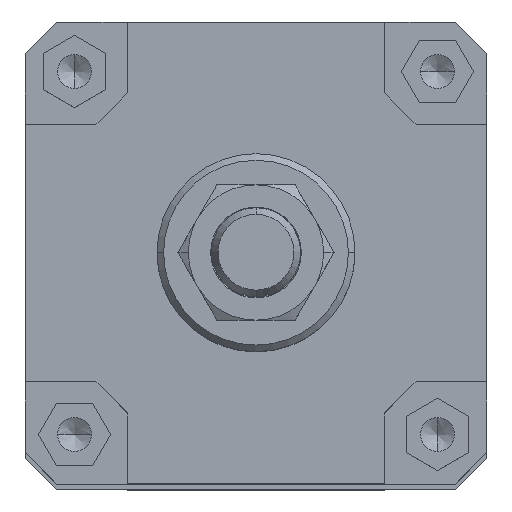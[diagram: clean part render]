
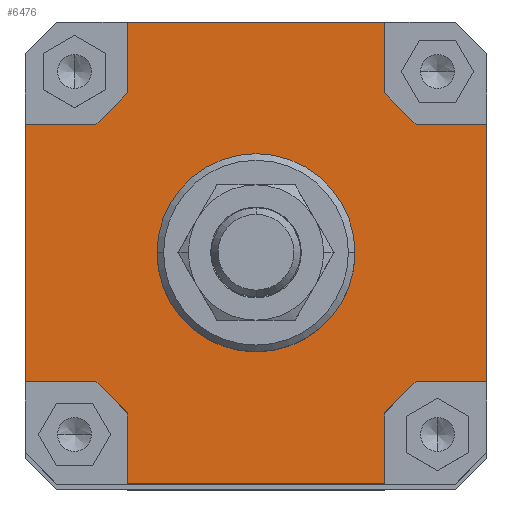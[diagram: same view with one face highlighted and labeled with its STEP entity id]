
A CAD part, top view. The second image highlights one B-rep face of the part: STEP entity #6476.
In plain terms, the highlighted planar face has unit normal (0, 0, 1).
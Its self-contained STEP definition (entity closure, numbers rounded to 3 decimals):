
#2320=CARTESIAN_POINT('',(-30.0,0.,530.0));
#2321=VERTEX_POINT('',#2320);
#2330=CARTESIAN_POINT('',(30.0,0.,530.0));
#2331=VERTEX_POINT('',#2330);
#2332=CARTESIAN_POINT('',(0.0,0.0,530.0));
#2333=DIRECTION('',(0.0,0.0,-1.0));
#2334=DIRECTION('',(-1.0,0.0,0.0));
#2335=AXIS2_PLACEMENT_3D('',#2332,#2333,#2334);
#2336=CIRCLE('',#2335,30.0);
#2337=EDGE_CURVE('',#2331,#2321,#2336,.T.);
#2557=CARTESIAN_POINT('',(0.0,0.0,530.0));
#2558=DIRECTION('',(0.0,0.0,-1.0));
#2559=DIRECTION('',(-1.0,0.0,0.0));
#2560=AXIS2_PLACEMENT_3D('',#2557,#2558,#2559);
#2561=CIRCLE('',#2560,30.0);
#2562=EDGE_CURVE('',#2321,#2331,#2561,.T.);
#2641=CARTESIAN_POINT('',(-39.,70.,530.0));
#2642=VERTEX_POINT('',#2641);
#2649=CARTESIAN_POINT('',(39.,70.,530.0));
#2650=VERTEX_POINT('',#2649);
#2651=CARTESIAN_POINT('',(-39.,70.,530.0));
#2652=DIRECTION('',(1.0,0.0,0.0));
#2653=VECTOR('',#2652,78.);
#2654=LINE('',#2651,#2653);
#2655=EDGE_CURVE('',#2642,#2650,#2654,.T.);
#3100=CARTESIAN_POINT('',(70.,39.,530.0));
#3101=VERTEX_POINT('',#3100);
#3108=CARTESIAN_POINT('',(70.,-39.0,530.0));
#3109=VERTEX_POINT('',#3108);
#3110=CARTESIAN_POINT('',(70.,39.,530.0));
#3111=DIRECTION('',(0.0,-1.0,0.0));
#3112=VECTOR('',#3111,78.);
#3113=LINE('',#3110,#3112);
#3114=EDGE_CURVE('',#3101,#3109,#3113,.T.);
#3181=CARTESIAN_POINT('',(-39.,-48.5,530.0));
#3182=VERTEX_POINT('',#3181);
#3189=CARTESIAN_POINT('',(-48.5,-39.,530.0));
#3190=VERTEX_POINT('',#3189);
#3191=CARTESIAN_POINT('',(-39.,-48.5,530.0));
#3192=DIRECTION('',(-0.707,0.707,0.0));
#3193=VECTOR('',#3192,13.435);
#3194=LINE('',#3191,#3193);
#3195=EDGE_CURVE('',#3182,#3190,#3194,.T.);
#3309=CARTESIAN_POINT('',(-70.,-39.,530.0));
#3310=VERTEX_POINT('',#3309);
#3311=CARTESIAN_POINT('',(-70.,-39.,530.0));
#3312=DIRECTION('',(1.0,0.0,0.0));
#3313=VECTOR('',#3312,21.5);
#3314=LINE('',#3311,#3313);
#3315=EDGE_CURVE('',#3310,#3190,#3314,.T.);
#3342=CARTESIAN_POINT('',(48.5,-39.,530.0));
#3343=VERTEX_POINT('',#3342);
#3350=CARTESIAN_POINT('',(39.,-48.5,530.0));
#3351=VERTEX_POINT('',#3350);
#3352=CARTESIAN_POINT('',(48.5,-39.,530.0));
#3353=DIRECTION('',(-0.707,-0.707,0.0));
#3354=VECTOR('',#3353,13.435);
#3355=LINE('',#3352,#3354);
#3356=EDGE_CURVE('',#3343,#3351,#3355,.T.);
#3454=CARTESIAN_POINT('',(39.,-70.,530.0));
#3455=VERTEX_POINT('',#3454);
#3456=CARTESIAN_POINT('',(39.,-70.,530.0));
#3457=DIRECTION('',(0.0,1.0,0.0));
#3458=VECTOR('',#3457,21.5);
#3459=LINE('',#3456,#3458);
#3460=EDGE_CURVE('',#3455,#3351,#3459,.T.);
#3487=CARTESIAN_POINT('',(39.,48.5,530.0));
#3488=VERTEX_POINT('',#3487);
#3495=CARTESIAN_POINT('',(48.5,39.,530.0));
#3496=VERTEX_POINT('',#3495);
#3497=CARTESIAN_POINT('',(39.,48.5,530.0));
#3498=DIRECTION('',(0.707,-0.707,0.0));
#3499=VECTOR('',#3498,13.435);
#3500=LINE('',#3497,#3499);
#3501=EDGE_CURVE('',#3488,#3496,#3500,.T.);
#3592=CARTESIAN_POINT('',(70.,39.,530.0));
#3593=DIRECTION('',(-1.0,0.0,0.0));
#3594=VECTOR('',#3593,21.5);
#3595=LINE('',#3592,#3594);
#3596=EDGE_CURVE('',#3101,#3496,#3595,.T.);
#3609=CARTESIAN_POINT('',(-48.5,39.,530.0));
#3610=VERTEX_POINT('',#3609);
#3617=CARTESIAN_POINT('',(-39.,48.5,530.0));
#3618=VERTEX_POINT('',#3617);
#3619=CARTESIAN_POINT('',(-48.5,39.,530.0));
#3620=DIRECTION('',(0.707,0.707,0.0));
#3621=VECTOR('',#3620,13.435);
#3622=LINE('',#3619,#3621);
#3623=EDGE_CURVE('',#3610,#3618,#3622,.T.);
#3640=CARTESIAN_POINT('',(-39.,70.,530.0));
#3641=DIRECTION('',(0.0,-1.0,0.0));
#3642=VECTOR('',#3641,21.5);
#3643=LINE('',#3640,#3642);
#3644=EDGE_CURVE('',#2642,#3618,#3643,.T.);
#4674=CARTESIAN_POINT('',(-70.,39.0,530.0));
#4675=VERTEX_POINT('',#4674);
#4676=CARTESIAN_POINT('',(-70.,-39.,530.0));
#4677=DIRECTION('',(0.0,1.0,0.0));
#4678=VECTOR('',#4677,78.0);
#4679=LINE('',#4676,#4678);
#4680=EDGE_CURVE('',#3310,#4675,#4679,.T.);
#6070=CARTESIAN_POINT('',(-48.5,39.,530.0));
#6071=DIRECTION('',(-1.0,0.0,0.0));
#6072=VECTOR('',#6071,21.5);
#6073=LINE('',#6070,#6072);
#6074=EDGE_CURVE('',#3610,#4675,#6073,.T.);
#6231=CARTESIAN_POINT('',(39.,48.5,530.0));
#6232=DIRECTION('',(0.0,1.0,0.0));
#6233=VECTOR('',#6232,21.5);
#6234=LINE('',#6231,#6233);
#6235=EDGE_CURVE('',#3488,#2650,#6234,.T.);
#6392=CARTESIAN_POINT('',(48.5,-39.,530.0));
#6393=DIRECTION('',(1.0,0.0,0.0));
#6394=VECTOR('',#6393,21.5);
#6395=LINE('',#6392,#6394);
#6396=EDGE_CURVE('',#3343,#3109,#6395,.T.);
#6437=CARTESIAN_POINT('',(0.,0.,530.0));
#6438=DIRECTION('',(0.0,0.0,1.0));
#6439=DIRECTION('',(1.0,0.0,0.0));
#6440=AXIS2_PLACEMENT_3D('',#6437,#6438,#6439);
#6441=PLANE('',#6440);
#6442=ORIENTED_EDGE('',*,*,#3644,.T.);
#6443=ORIENTED_EDGE('',*,*,#3623,.F.);
#6444=ORIENTED_EDGE('',*,*,#6074,.T.);
#6445=ORIENTED_EDGE('',*,*,#4680,.F.);
#6446=ORIENTED_EDGE('',*,*,#3315,.T.);
#6447=ORIENTED_EDGE('',*,*,#3195,.F.);
#6448=CARTESIAN_POINT('',(-39.,-70.,530.0));
#6449=VERTEX_POINT('',#6448);
#6450=CARTESIAN_POINT('',(-39.,-48.5,530.0));
#6451=DIRECTION('',(0.0,-1.0,0.0));
#6452=VECTOR('',#6451,21.5);
#6453=LINE('',#6450,#6452);
#6454=EDGE_CURVE('',#3182,#6449,#6453,.T.);
#6455=ORIENTED_EDGE('',*,*,#6454,.T.);
#6456=CARTESIAN_POINT('',(39.,-70.,530.0));
#6457=DIRECTION('',(-1.0,0.0,0.0));
#6458=VECTOR('',#6457,78.);
#6459=LINE('',#6456,#6458);
#6460=EDGE_CURVE('',#3455,#6449,#6459,.T.);
#6461=ORIENTED_EDGE('',*,*,#6460,.F.);
#6462=ORIENTED_EDGE('',*,*,#3460,.T.);
#6463=ORIENTED_EDGE('',*,*,#3356,.F.);
#6464=ORIENTED_EDGE('',*,*,#6396,.T.);
#6465=ORIENTED_EDGE('',*,*,#3114,.F.);
#6466=ORIENTED_EDGE('',*,*,#3596,.T.);
#6467=ORIENTED_EDGE('',*,*,#3501,.F.);
#6468=ORIENTED_EDGE('',*,*,#6235,.T.);
#6469=ORIENTED_EDGE('',*,*,#2655,.F.);
#6470=EDGE_LOOP('',(#6442,#6443,#6444,#6445,#6446,#6447,#6455,#6461,#6462,#6463,#6464,#6465,#6466,#6467,#6468,#6469));
#6471=FACE_OUTER_BOUND('',#6470,.T.);
#6472=ORIENTED_EDGE('',*,*,#2337,.T.);
#6473=ORIENTED_EDGE('',*,*,#2562,.T.);
#6474=EDGE_LOOP('',(#6472,#6473));
#6475=FACE_BOUND('',#6474,.T.);
#6476=ADVANCED_FACE('',(#6471,#6475),#6441,.T.);
